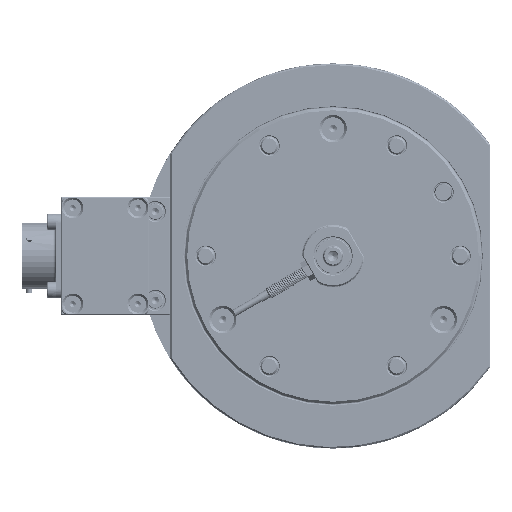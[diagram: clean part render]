
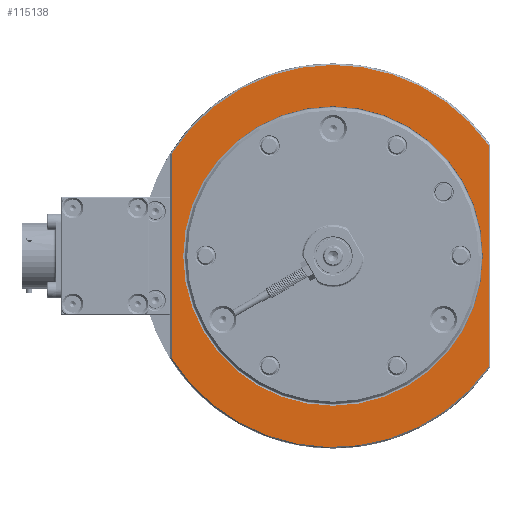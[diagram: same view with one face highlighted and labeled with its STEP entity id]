
A CAD part, front view. The second image highlights one B-rep face of the part: STEP entity #115138.
In plain terms, the highlighted planar face has unit normal (0, -1, 0).
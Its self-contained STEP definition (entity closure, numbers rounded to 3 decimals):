
#5912 = ORIENTED_EDGE ( 'NONE', *, *, #18227, .T. ) ;
#6043 = EDGE_CURVE ( 'NONE', #134998, #61474, #28206, .T. ) ;
#6919 = EDGE_LOOP ( 'NONE', ( #31000, #16785, #5912, #15096, #82120 ) ) ;
#7245 = DIRECTION ( 'NONE',  ( 0., 0., -1. ) ) ;
#10605 = DIRECTION ( 'NONE',  ( 0., -1., 0. ) ) ;
#15096 = ORIENTED_EDGE ( 'NONE', *, *, #98165, .T. ) ;
#16785 = ORIENTED_EDGE ( 'NONE', *, *, #128583, .T. ) ;
#17117 = ORIENTED_EDGE ( 'NONE', *, *, #90953, .F. ) ;
#17395 = AXIS2_PLACEMENT_3D ( 'NONE', #39364, #114860, #138245 ) ;
#18227 = EDGE_CURVE ( 'NONE', #60385, #159196, #84517, .T. ) ;
#22449 = DIRECTION ( 'NONE',  ( 0., 0., -1. ) ) ;
#24347 = EDGE_CURVE ( 'NONE', #90207, #117979, #144358, .T. ) ;
#28206 = CIRCLE ( 'NONE', #87114, 64.5 ) ;
#30050 = DIRECTION ( 'NONE',  ( 0., -1., 0. ) ) ;
#30752 = DIRECTION ( 'NONE',  ( 0., -1., 0. ) ) ;
#30993 = CARTESIAN_POINT ( 'NONE',  ( -47.584, 23.837, 77.217 ) ) ;
#31000 = ORIENTED_EDGE ( 'NONE', *, *, #6043, .T. ) ;
#31218 = CARTESIAN_POINT ( 'NONE',  ( -47.584, 23.837, 127.774 ) ) ;
#32590 = CARTESIAN_POINT ( 'NONE',  ( -47.584, 23.837, 178.331 ) ) ;
#39364 = CARTESIAN_POINT ( 'NONE',  ( 2.974, 23.837, 127.774 ) ) ;
#41518 = CARTESIAN_POINT ( 'NONE',  ( -47.584, 23.837, 127.774 ) ) ;
#46241 = CARTESIAN_POINT ( 'NONE',  ( 4.916, 23.837, 165.244 ) ) ;
#50168 = CIRCLE ( 'NONE', #157390, 64.5 ) ;
#54763 = DIRECTION ( 'NONE',  ( 0., 0., -1. ) ) ;
#55751 = DIRECTION ( 'NONE',  ( 0., -1., 0. ) ) ;
#60385 = VERTEX_POINT ( 'NONE', #150427 ) ;
#61044 = EDGE_LOOP ( 'NONE', ( #17117, #155456 ) ) ;
#61474 = VERTEX_POINT ( 'NONE', #135426 ) ;
#66571 = AXIS2_PLACEMENT_3D ( 'NONE', #83166, #120085, #70181 ) ;
#70181 = DIRECTION ( 'NONE',  ( 0., 0., -1. ) ) ;
#71680 = CARTESIAN_POINT ( 'NONE',  ( 4.916, 23.837, 165.404 ) ) ;
#74974 = EDGE_CURVE ( 'NONE', #123297, #134998, #115551, .T. ) ;
#82120 = ORIENTED_EDGE ( 'NONE', *, *, #74974, .T. ) ;
#83166 = CARTESIAN_POINT ( 'NONE',  ( -47.584, 23.837, 127.774 ) ) ;
#84517 = LINE ( 'NONE', #108857, #150447 ) ;
#85119 = CARTESIAN_POINT ( 'NONE',  ( -47.584, 23.837, 127.774 ) ) ;
#87114 = AXIS2_PLACEMENT_3D ( 'NONE', #141032, #30752, #54763 ) ;
#90207 = VERTEX_POINT ( 'NONE', #32590 ) ;
#90953 = EDGE_CURVE ( 'NONE', #117979, #90207, #139425, .T. ) ;
#95362 = FACE_OUTER_BOUND ( 'NONE', #6919, .T. ) ;
#96510 = DIRECTION ( 'NONE',  ( 0., 0., -1. ) ) ;
#98165 = EDGE_CURVE ( 'NONE', #159196, #123297, #121257, .T. ) ;
#101241 = AXIS2_PLACEMENT_3D ( 'NONE', #41518, #30050, #115375 ) ;
#105355 = CARTESIAN_POINT ( 'NONE',  ( 4.916, 23.837, 90.304 ) ) ;
#108857 = CARTESIAN_POINT ( 'NONE',  ( -102.084, 23.837, 93.133 ) ) ;
#111736 = DIRECTION ( 'NONE',  ( 0., 0., 1. ) ) ;
#114860 = DIRECTION ( 'NONE',  ( 0., -1., 0. ) ) ;
#115138 = ADVANCED_FACE ( 'NONE', ( #95362, #130373 ), #137179, .T. ) ;
#115375 = DIRECTION ( 'NONE',  ( 0., 0., -1. ) ) ;
#115551 = LINE ( 'NONE', #71680, #135054 ) ;
#117979 = VERTEX_POINT ( 'NONE', #30993 ) ;
#120085 = DIRECTION ( 'NONE',  ( 0., -1., 0. ) ) ;
#121257 = CIRCLE ( 'NONE', #66571, 64.5 ) ;
#123297 = VERTEX_POINT ( 'NONE', #105355 ) ;
#128583 = EDGE_CURVE ( 'NONE', #61474, #60385, #50168, .T. ) ;
#130373 = FACE_BOUND ( 'NONE', #61044, .T. ) ;
#131751 = CARTESIAN_POINT ( 'NONE',  ( -102.084, 23.837, 93.278 ) ) ;
#134998 = VERTEX_POINT ( 'NONE', #46241 ) ;
#135054 = VECTOR ( 'NONE', #111736, 1000. ) ;
#135426 = CARTESIAN_POINT ( 'NONE',  ( -47.584, 23.837, 192.274 ) ) ;
#137179 = PLANE ( 'NONE',  #17395 ) ;
#138245 = DIRECTION ( 'NONE',  ( 0., 0., -1. ) ) ;
#139425 = CIRCLE ( 'NONE', #153580, 50.557 ) ;
#141032 = CARTESIAN_POINT ( 'NONE',  ( -47.584, 23.837, 127.774 ) ) ;
#144358 = CIRCLE ( 'NONE', #101241, 50.557 ) ;
#150427 = CARTESIAN_POINT ( 'NONE',  ( -102.084, 23.837, 162.271 ) ) ;
#150447 = VECTOR ( 'NONE', #22449, 1000. ) ;
#153580 = AXIS2_PLACEMENT_3D ( 'NONE', #85119, #10605, #96510 ) ;
#155456 = ORIENTED_EDGE ( 'NONE', *, *, #24347, .F. ) ;
#157390 = AXIS2_PLACEMENT_3D ( 'NONE', #31218, #55751, #7245 ) ;
#159196 = VERTEX_POINT ( 'NONE', #131751 ) ;
